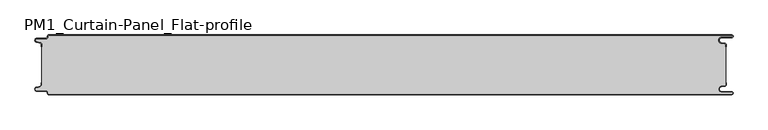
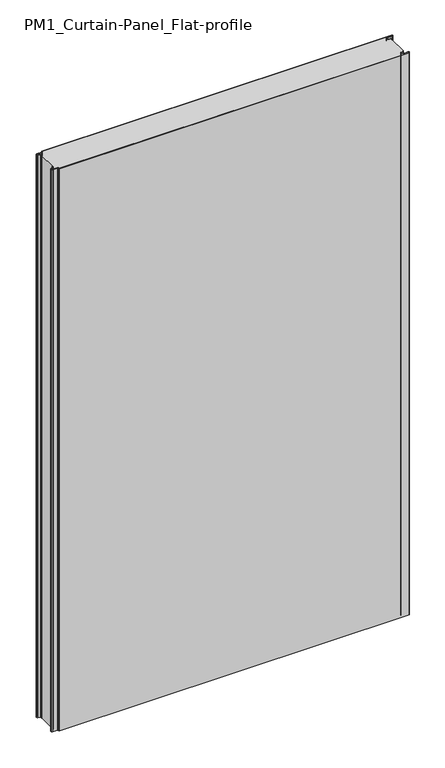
"""IFC4 building model written with IfcOpenShell, lengths in millimetres: plate geometry, PM1_Curtain-Panel_Flat-profile : ACH_PM1_Stone-wool-Panel_100M."""

from ifc_helpers import new_model, si_unit, point, frame_2d, origin, origin_with_axes, place, context, project, spatial, polyline, circle_curve, trimmed, segment, composite_curve, outline, extrude, source, transform, mapped, element, save


def pm1_curtain_panel_flat_profile_24c4898d(model_context):
    return source(origin(), model_context, "Body", "SweptSolid", [
        extrude(outline(composite_curve([segment(polyline([(-562.4, 0.0), (583.1, 0.0)]), True, "CONTINUOUS"), segment(trimmed(circle_curve(frame_2d((583.1, -2.5)), 2.5), [point((583.1, 0.0))], [point((583.1, -5.0))], False, "CARTESIAN"), True, "CONTINUOUS"), segment(polyline([(583.1, -5.0), (566.1, -5.0)]), True, "CONTINUOUS"), segment(trimmed(circle_curve(frame_2d((566.1, -9.0)), 4.0), [point((566.1, -5.0))], [point((565.4054075, -12.939231))], True, "CARTESIAN"), True, "CONTINUOUS"), segment(polyline([(565.4054075, -12.939231), (571.8514851, -14.075848)]), True, "CONTINUOUS"), segment(trimmed(circle_curve(frame_2d((571.4, -16.636348)), 2.6), [point((571.8514851, -14.075848))], [point((574.0, -16.636348))], False, "CARTESIAN"), True, "CONTINUOUS"), segment(polyline([(574.0, -16.636348), (574.0, -20.0), (573.2, -20.0), (573.2, -16.636348)]), True, "CONTINUOUS"), segment(trimmed(circle_curve(frame_2d((571.4, -16.636348)), 1.8), [point((573.2, -16.636348))], [point((571.7125666, -14.863694))], True, "CARTESIAN"), True, "CONTINUOUS"), segment(polyline([(571.7125666, -14.863694), (565.266489, -13.7270771)]), True, "CONTINUOUS"), segment(trimmed(circle_curve(frame_2d((566.1, -9.0)), 4.8), [point((565.266489, -13.7270771))], [point((566.1, -4.2))], False, "CARTESIAN"), True, "CONTINUOUS"), segment(polyline([(566.1, -4.2), (583.1, -4.2)]), True, "CONTINUOUS"), segment(trimmed(circle_curve(frame_2d((583.1, -2.5)), 1.7), [point((583.1, -4.2))], [point((583.1, -0.8))], True, "CARTESIAN"), True, "CONTINUOUS"), segment(polyline([(583.1, -0.8), (-562.4, -0.8)]), True, "CONTINUOUS"), segment(trimmed(circle_curve(frame_2d((-562.4, -2.0)), 1.2), [point((-562.4, -0.8))], [point((-563.6, -2.0))], True, "CARTESIAN"), True, "CONTINUOUS"), segment(polyline([(-563.6, -2.0), (-563.6, -3.4)]), True, "CONTINUOUS"), segment(trimmed(circle_curve(frame_2d((-566.4, -3.4)), 2.8), [point((-563.6, -3.4))], [point((-566.4, -6.2))], False, "CARTESIAN"), True, "CONTINUOUS"), segment(polyline([(-566.4, -6.2), (-581.9, -6.2)]), True, "CONTINUOUS"), segment(trimmed(circle_curve(frame_2d((-581.9, -9.0)), 2.8), [point((-581.9, -6.2))], [point((-582.529863, -11.7282362))], True, "CARTESIAN"), True, "CONTINUOUS"), segment(polyline([(-582.529863, -11.7282362), (-576.370137, -13.150321)]), True, "CONTINUOUS"), segment(trimmed(circle_curve(frame_2d((-577.0, -15.878557)), 2.8), [point((-576.370137, -13.150321))], [point((-574.2, -15.878557))], False, "CARTESIAN"), True, "CONTINUOUS"), segment(polyline([(-574.2, -15.878557), (-574.2, -20.0), (-575.0, -20.0), (-575.0, -15.878557)]), True, "CONTINUOUS"), segment(trimmed(circle_curve(frame_2d((-577.0, -15.878557)), 2.0), [point((-575.0, -15.878557))], [point((-576.5500978, -13.9298169))], True, "CARTESIAN"), True, "CONTINUOUS"), segment(polyline([(-576.5500978, -13.9298169), (-582.7098239, -12.507732)]), True, "CONTINUOUS"), segment(trimmed(circle_curve(frame_2d((-581.9, -9.0)), 3.6), [point((-582.7098239, -12.507732))], [point((-581.9, -5.4))], False, "CARTESIAN"), True, "CONTINUOUS"), segment(polyline([(-581.9, -5.4), (-566.4, -5.4)]), True, "CONTINUOUS"), segment(trimmed(circle_curve(frame_2d((-566.4, -3.4)), 2.0), [point((-566.4, -5.4))], [point((-564.4, -3.4))], True, "CARTESIAN"), True, "CONTINUOUS"), segment(polyline([(-564.4, -3.4), (-564.4, -2.0)]), True, "CONTINUOUS"), segment(trimmed(circle_curve(frame_2d((-562.4, -2.0)), 2.0), [point((-564.4, -2.0))], [point((-562.4, 0.0))], False, "CARTESIAN"), True, "CONTINUOUS")], self_intersect=False)), origin_with_axes(), (0.0, 0.0, 1.0), 1945.7507136),
        extrude(outline(composite_curve([segment(polyline([(-574.2, -84.1214426), (-574.2, -15.8785573)]), True, "CONTINUOUS"), segment(trimmed(circle_curve(frame_2d((-577.0, -15.8785573)), 2.8), [point((-574.2, -15.8785573))], [point((-576.370137, -13.1503212))], True, "CARTESIAN"), True, "CONTINUOUS"), segment(polyline([(-576.370137, -13.1503212), (-582.5298631, -11.7282362)]), True, "CONTINUOUS"), segment(trimmed(circle_curve(frame_2d((-581.9, -9.0)), 2.8), [point((-582.5298631, -11.7282362))], [point((-581.9, -6.2))], False, "CARTESIAN"), True, "CONTINUOUS"), segment(polyline([(-581.9, -6.2), (-566.4000001, -6.2)]), True, "CONTINUOUS"), segment(trimmed(circle_curve(frame_2d((-566.4000001, -3.4)), 2.8), [point((-566.4000001, -6.2))], [point((-563.6000001, -3.4))], True, "CARTESIAN"), True, "CONTINUOUS"), segment(polyline([(-563.6000001, -3.4), (-563.6000001, -2.0)]), True, "CONTINUOUS"), segment(trimmed(circle_curve(frame_2d((-562.4000001, -2.0)), 1.2), [point((-563.6000001, -2.0))], [point((-562.4000001, -0.8))], False, "CARTESIAN"), True, "CONTINUOUS"), segment(polyline([(-562.4000001, -0.8), (583.1, -0.8)]), True, "CONTINUOUS"), segment(trimmed(circle_curve(frame_2d((583.1, -2.5)), 1.7), [point((583.1, -0.8))], [point((583.1, -4.2))], False, "CARTESIAN"), True, "CONTINUOUS"), segment(polyline([(583.1, -4.2), (566.1, -4.2)]), True, "CONTINUOUS"), segment(trimmed(circle_curve(frame_2d((566.1, -9.0)), 4.8), [point((566.1, -4.2))], [point((565.2664883, -13.7270771))], True, "CARTESIAN"), True, "CONTINUOUS"), segment(polyline([(565.2664883, -13.7270771), (571.7125668, -14.8636953)]), True, "CONTINUOUS"), segment(trimmed(circle_curve(frame_2d((571.4, -16.6363492)), 1.8), [point((571.7125668, -14.8636953))], [point((573.2, -16.6363492))], False, "CARTESIAN"), True, "CONTINUOUS"), segment(polyline([(573.2, -16.6363492), (573.2, -83.3636508)]), True, "CONTINUOUS"), segment(trimmed(circle_curve(frame_2d((571.4, -83.3636508)), 1.8), [point((573.2, -83.3636508))], [point((571.7125668, -85.1363047))], False, "CARTESIAN"), True, "CONTINUOUS"), segment(polyline([(571.7125668, -85.1363047), (565.2664883, -86.2729229)]), True, "CONTINUOUS"), segment(trimmed(circle_curve(frame_2d((566.1, -91.0)), 4.8), [point((565.2664883, -86.2729229))], [point((566.1, -95.8))], True, "CARTESIAN"), True, "CONTINUOUS"), segment(polyline([(566.1, -95.8), (583.1, -95.8)]), True, "CONTINUOUS"), segment(trimmed(circle_curve(frame_2d((583.1, -97.5)), 1.7), [point((583.1, -95.8))], [point((583.1, -99.2))], False, "CARTESIAN"), True, "CONTINUOUS"), segment(polyline([(583.1, -99.2), (-562.4000001, -99.2)]), True, "CONTINUOUS"), segment(trimmed(circle_curve(frame_2d((-562.4000001, -98.0)), 1.2), [point((-562.4000001, -99.2))], [point((-563.6000001, -98.0))], False, "CARTESIAN"), True, "CONTINUOUS"), segment(polyline([(-563.6000001, -98.0), (-563.6000001, -96.6)]), True, "CONTINUOUS"), segment(trimmed(circle_curve(frame_2d((-566.4000001, -96.6)), 2.8), [point((-563.6000001, -96.6))], [point((-566.4000001, -93.8))], True, "CARTESIAN"), True, "CONTINUOUS"), segment(polyline([(-566.4000001, -93.8), (-581.9, -93.8)]), True, "CONTINUOUS"), segment(trimmed(circle_curve(frame_2d((-581.9, -91.0)), 2.8), [point((-581.9, -93.8))], [point((-582.5298631, -88.2717638))], False, "CARTESIAN"), True, "CONTINUOUS"), segment(polyline([(-582.5298631, -88.2717638), (-576.370137, -86.8496788)]), True, "CONTINUOUS"), segment(trimmed(circle_curve(frame_2d((-577.0, -84.1214426)), 2.8), [point((-576.370137, -86.8496788))], [point((-574.2, -84.1214426))], True, "CARTESIAN"), True, "CONTINUOUS")], self_intersect=False)), origin_with_axes(), (0.0, 0.0, 1.0), 1945.7507136),
        extrude(outline(composite_curve([segment(polyline([(583.1, -100.0), (-562.4, -100.0)]), True, "CONTINUOUS"), segment(trimmed(circle_curve(frame_2d((-562.4, -98.0)), 2.0), [point((-562.4, -100.0))], [point((-564.4, -98.0))], False, "CARTESIAN"), True, "CONTINUOUS"), segment(polyline([(-564.4, -98.0), (-564.4, -96.6)]), True, "CONTINUOUS"), segment(trimmed(circle_curve(frame_2d((-566.4, -96.6)), 2.0), [point((-564.4, -96.6))], [point((-566.4, -94.6))], True, "CARTESIAN"), True, "CONTINUOUS"), segment(polyline([(-566.4, -94.6), (-581.9, -94.6)]), True, "CONTINUOUS"), segment(trimmed(circle_curve(frame_2d((-581.9, -91.0)), 3.6), [point((-581.9, -94.6))], [point((-582.7098239, -87.4922678))], False, "CARTESIAN"), True, "CONTINUOUS"), segment(polyline([(-582.7098239, -87.4922678), (-576.5500979, -86.070183)]), True, "CONTINUOUS"), segment(trimmed(circle_curve(frame_2d((-577.0, -84.121443)), 2.0), [point((-576.5500979, -86.070183))], [point((-575.0, -84.121443))], True, "CARTESIAN"), True, "CONTINUOUS"), segment(polyline([(-575.0, -84.121443), (-575.0, -80.0), (-574.2, -80.0), (-574.2, -84.121443)]), True, "CONTINUOUS"), segment(trimmed(circle_curve(frame_2d((-577.0, -84.121443)), 2.8), [point((-574.2, -84.121443))], [point((-576.370137, -86.8496792))], False, "CARTESIAN"), True, "CONTINUOUS"), segment(polyline([(-576.370137, -86.8496792), (-582.529863, -88.271764)]), True, "CONTINUOUS"), segment(trimmed(circle_curve(frame_2d((-581.9, -91.0)), 2.8), [point((-582.529863, -88.271764))], [point((-581.9, -93.8))], True, "CARTESIAN"), True, "CONTINUOUS"), segment(polyline([(-581.9, -93.8), (-566.4, -93.8)]), True, "CONTINUOUS"), segment(trimmed(circle_curve(frame_2d((-566.4, -96.6)), 2.8), [point((-566.4, -93.8))], [point((-563.6, -96.6))], False, "CARTESIAN"), True, "CONTINUOUS"), segment(polyline([(-563.6, -96.6), (-563.6, -98.0)]), True, "CONTINUOUS"), segment(trimmed(circle_curve(frame_2d((-562.4, -98.0)), 1.2), [point((-563.6, -98.0))], [point((-562.4, -99.2))], True, "CARTESIAN"), True, "CONTINUOUS"), segment(polyline([(-562.4, -99.2), (583.1, -99.2)]), True, "CONTINUOUS"), segment(trimmed(circle_curve(frame_2d((583.1, -97.5)), 1.7), [point((583.1, -99.2))], [point((583.1, -95.8))], True, "CARTESIAN"), True, "CONTINUOUS"), segment(polyline([(583.1, -95.8), (566.1, -95.8)]), True, "CONTINUOUS"), segment(trimmed(circle_curve(frame_2d((566.1, -91.0)), 4.8), [point((566.1, -95.8))], [point((565.266489, -86.2729227))], False, "CARTESIAN"), True, "CONTINUOUS"), segment(polyline([(565.266489, -86.2729227), (571.7125666, -85.1363058)]), True, "CONTINUOUS"), segment(trimmed(circle_curve(frame_2d((571.4, -83.363652)), 1.8), [point((571.7125666, -85.1363058))], [point((573.2, -83.363652))], True, "CARTESIAN"), True, "CONTINUOUS"), segment(polyline([(573.2, -83.363652), (573.2, -80.0), (574.0, -80.0), (574.0, -83.363652)]), True, "CONTINUOUS"), segment(trimmed(circle_curve(frame_2d((571.4, -83.363652)), 2.6), [point((574.0, -83.363652))], [point((571.8514851, -85.9241522))], False, "CARTESIAN"), True, "CONTINUOUS"), segment(polyline([(571.8514851, -85.9241522), (565.4054075, -87.0607691)]), True, "CONTINUOUS"), segment(trimmed(circle_curve(frame_2d((566.1, -91.0)), 4.0), [point((565.4054075, -87.0607691))], [point((566.1, -95.0))], True, "CARTESIAN"), True, "CONTINUOUS"), segment(polyline([(566.1, -95.0), (583.1, -95.0)]), True, "CONTINUOUS"), segment(trimmed(circle_curve(frame_2d((583.1, -97.5)), 2.5), [point((583.1, -95.0))], [point((583.1, -100.0))], False, "CARTESIAN"), True, "CONTINUOUS")], self_intersect=False)), origin_with_axes(), (0.0, 0.0, 1.0), 1945.7507136),
    ])


if __name__ == "__main__":
    model = new_model("IFC4")
    model_context = context("Model", 3, world=origin())
    ifc_project = project(units=[si_unit("LENGTHUNIT", "METRE", prefix="MILLI")], contexts=[model_context])
    site = spatial("IfcSite", under=ifc_project)
    building = spatial("IfcBuilding", under=site)
    placement = place(None, origin())
    pm1_curtain_panel_flat_profile_shape = pm1_curtain_panel_flat_profile_24c4898d(model_context)
    element("IfcPlate", 1, ObjectType="PM1_Curtain-Panel_Flat-profile : ACH_PM1_Stone-wool-Panel_100M", at=placement, inside=building, context=model_context, shape_type="MappedRepresentation", body=[
        mapped(pm1_curtain_panel_flat_profile_shape, transform((0.0, 0.0, 0.0), x_axis=(1.0, 0.0, 0.0), y_axis=(0.0, 1.0, 0.0), z_axis=(0.0, 0.0, 1.0))),
    ])
    save(model, "model.ifc")
